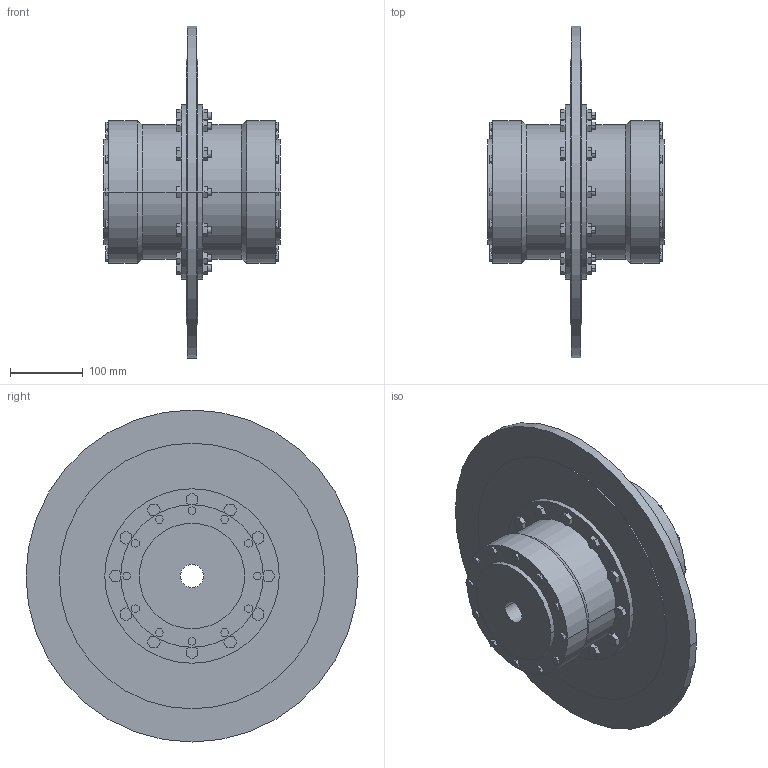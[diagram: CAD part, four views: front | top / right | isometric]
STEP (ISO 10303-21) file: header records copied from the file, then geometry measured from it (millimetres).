
FILE_DESCRIPTION((''),'2;1');
FILE_NAME('A19730200-0_ASM','2019-05-23T',('AB_Roschiwal'),('RENK AG'),'PRO/ENGINEER BY PARAMETRIC TECHNOLOGY CORPORATION, 2015440','PRO/ENGINEER BY PARAMETRIC TECHNOLOGY CORPORATION, 2015440','');
FILE_SCHEMA(('CONFIG_CONTROL_DESIGN'));
Length unit declared in the file: millimetre
Products named in the file (4): SBKT90_GEHAEUSE; SBKT90_NABE; SBKT90_BREMSSCHEIBE; A19730200-0_ASM
Assembly tree (4 placements, depth 2):
  A19730200-0_ASM
    SBKT90_GEHAEUSE
    SBKT90_NABE  x2
    SBKT90_BREMSSCHEIBE
Bounding box: 243 x 457 x 457 mm (x, y, z)
Volume: 7523192.8 mm3; surface area: 901926.7 mm2
Topology: 4 solids, 4 shells, 470 faces, 1156 edges, 768 vertices
Faces by surface type: plane 370, cylinder 96, cone 4
Entity records: 13604 total; most frequent: CARTESIAN_POINT 2350, ORIENTED_EDGE 2264, DIRECTION 2240, EDGE_CURVE 1132, VECTOR 956, LINE 956, VERTEX_POINT 752, AXIS2_PLACEMENT_3D 642
